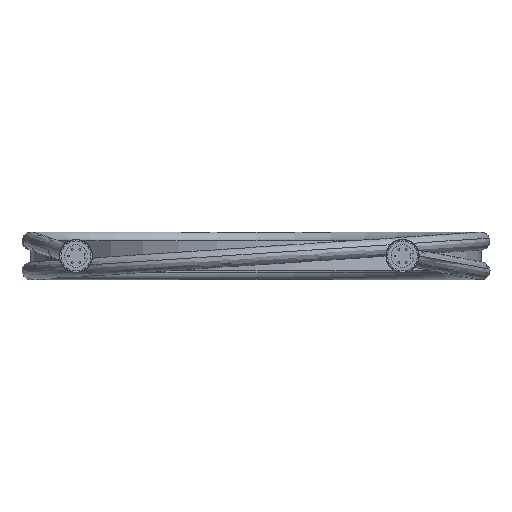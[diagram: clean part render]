
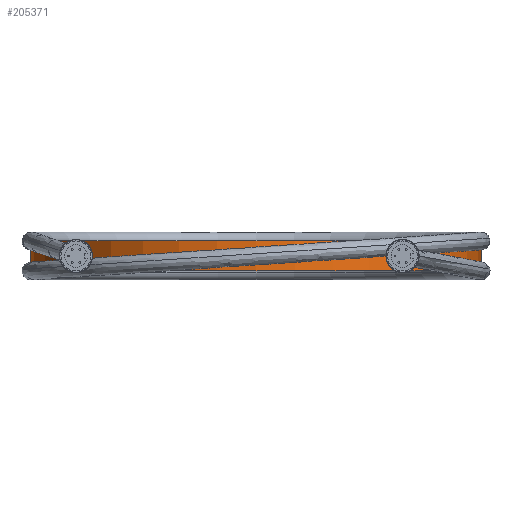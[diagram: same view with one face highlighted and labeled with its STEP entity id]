
A CAD part, left-side view. The second image highlights one B-rep face of the part: STEP entity #205371.
In plain terms, the highlighted cylindrical face has radius 150 mm (diameter 300 mm), a partial arc.
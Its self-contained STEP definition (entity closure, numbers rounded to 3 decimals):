
#205320=CARTESIAN_POINT('',(400.,-120.,-10.));
#205321=DIRECTION('',(0.,0.,-1.));
#205322=DIRECTION('',(0.,-1.,0.));
#205323=AXIS2_PLACEMENT_3D('',#205320,#205321,#205322);
#205325=DIRECTION('',(0.,0.,1.));
#205326=VECTOR('',#205325,20.);
#205327=CARTESIAN_POINT('',(400.,30.,-10.));
#205328=LINE('',#205327,#205326);
#205329=CARTESIAN_POINT('',(400.,-120.,10.));
#205330=DIRECTION('',(0.,0.,1.));
#205331=DIRECTION('',(0.,1.,0.));
#205332=AXIS2_PLACEMENT_3D('',#205329,#205330,#205331);
#205339=DIRECTION('',(0.,0.,1.));
#205340=VECTOR('',#205339,20.);
#205341=CARTESIAN_POINT('',(400.,-270.,-10.));
#205342=LINE('',#205341,#205340);
#205348=CARTESIAN_POINT('',(400.,-270.,-10.));
#205349=CARTESIAN_POINT('',(400.,30.,-10.));
#205350=VERTEX_POINT('',#205348);
#205351=VERTEX_POINT('',#205349);
#205352=CARTESIAN_POINT('',(400.,-270.,10.));
#205353=CARTESIAN_POINT('',(400.,30.,10.));
#205354=VERTEX_POINT('',#205352);
#205355=VERTEX_POINT('',#205353);
#205356=CARTESIAN_POINT('',(400.,-120.,-10.));
#205357=DIRECTION('',(0.,0.,1.));
#205358=DIRECTION('',(0.,-1.,0.));
#205359=AXIS2_PLACEMENT_3D('',#205356,#205357,#205358);
#205360=CYLINDRICAL_SURFACE('',#205359,150.);
#205362=ORIENTED_EDGE('',*,*,#205361,.T.);
#205364=ORIENTED_EDGE('',*,*,#205363,.T.);
#205366=ORIENTED_EDGE('',*,*,#205365,.T.);
#205368=ORIENTED_EDGE('',*,*,#205367,.F.);
#205369=EDGE_LOOP('',(#205362,#205364,#205366,#205368));
#205370=FACE_OUTER_BOUND('',#205369,.F.);
#205371=ADVANCED_FACE('',(#205370),#205360,.T.);
#205324=CIRCLE('',#205323,150.);
#205333=CIRCLE('',#205332,150.);
#205361=EDGE_CURVE('',#205350,#205351,#205324,.T.);
#205363=EDGE_CURVE('',#205351,#205355,#205328,.T.);
#205365=EDGE_CURVE('',#205355,#205354,#205333,.T.);
#205367=EDGE_CURVE('',#205350,#205354,#205342,.T.);
